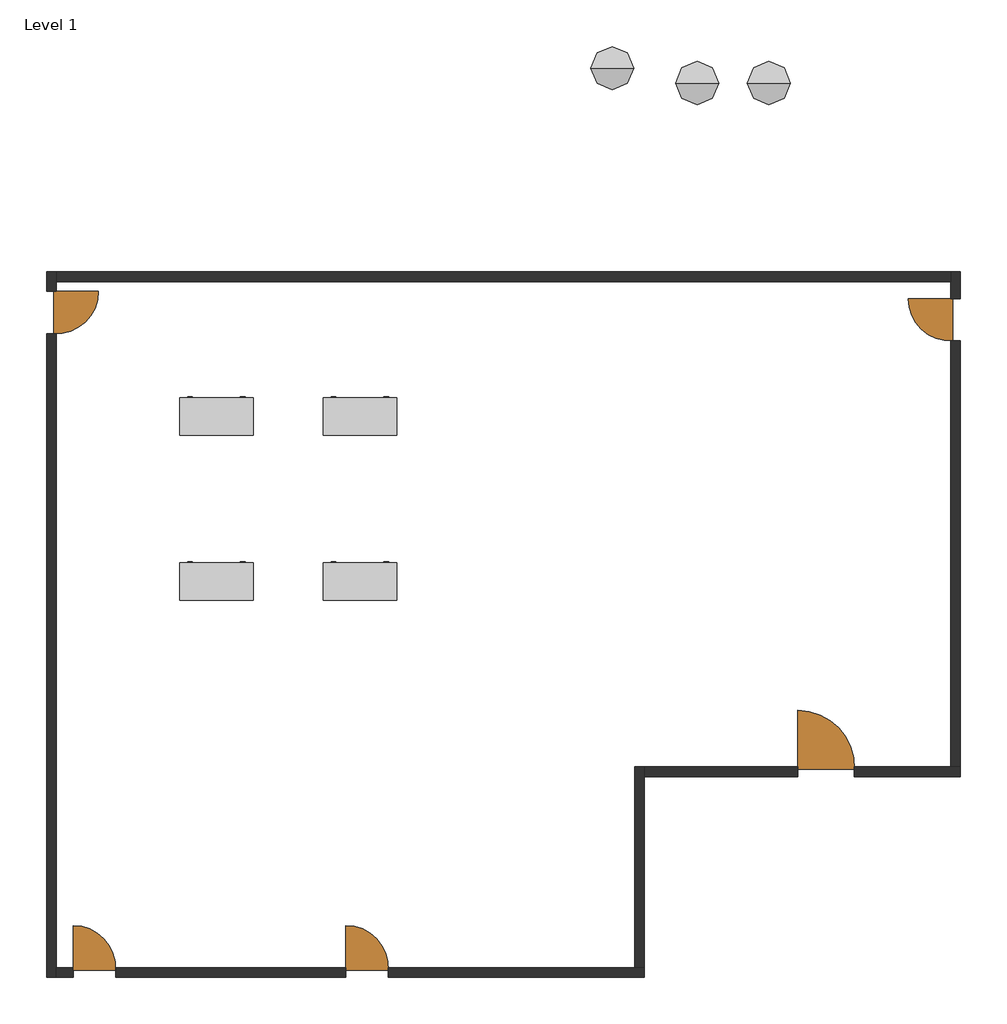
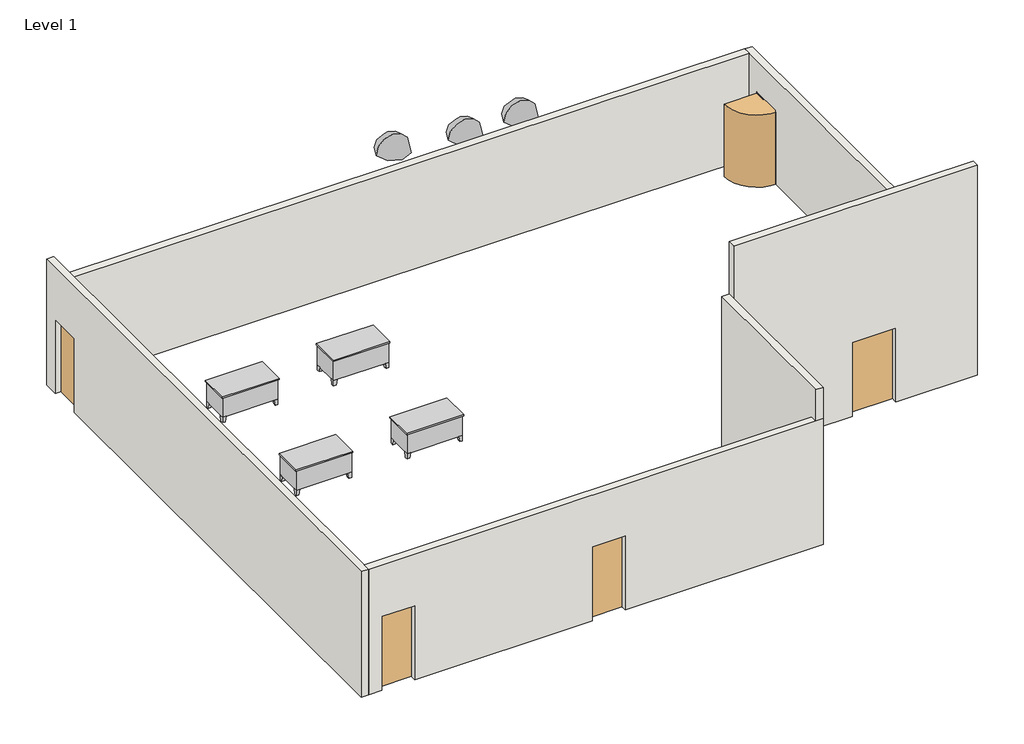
# One storey: 10 doors, 6 walls, 4 furniture elements, 3 geographic elements.
"""IFC4 building model written with IfcOpenShell, lengths in millimetres."""

from ifc_helpers import new_model, si_unit, origin, origin_with_axes, place, context, project, spatial, polyline, outline, extrude, faceted_brep, transform, mapped, element, save
from components import door_partition_swing_single_wh_exterior_078b59bc, door_partition_swing_single_wh_exterior_2_0468d7f5, door_partition_swing_single_wh_exterior_3_02f52fd3, pnl_pf_pnl_pf_4_7045c2cb, pnl_pf_pnl_pf_4_7c45ae1c, pnl_pf_pnl_pf_4_d502edfb, furniture_072f6425, geographic_element_e8c3bac9

model = new_model("IFC4")

# Units and contexts
model_context = context("Model", 3, world=origin())
ifc_project = project(units=[si_unit("LENGTHUNIT", "METRE", prefix="MILLI")], contexts=[model_context])

# Site, building, storey
site = spatial("IfcSite", under=ifc_project)
building = spatial("IfcBuilding", under=site)
storey = spatial("IfcBuildingStorey", under=building, Name="Level 1", Elevation=0.0)

# Doors
placement = place(None, origin())
door_partition_swing_single_wh_exterior_shape = door_partition_swing_single_wh_exterior_078b59bc(model_context)
element("IfcDoor", 1, ObjectType="Door_Partition_Swing_Single_WH : Exterior", at=placement, inside=storey, context=model_context, shape_type="MappedRepresentation", body=[
    mapped(door_partition_swing_single_wh_exterior_shape, transform((5422.8980806, 7885.4849511, 0.0), x_axis=(0.0, -1.0, 0.0), y_axis=(1.0, 0.0, 0.0), z_axis=(0.0, 0.0, 1.0))),
])
door_partition_swing_single_wh_exterior_2_shape = door_partition_swing_single_wh_exterior_2_0468d7f5(model_context)
element("IfcDoor", 2, ObjectType="Door_Partition_Swing_Single_WH : Exterior", at=placement, inside=storey, context=model_context, shape_type="MappedRepresentation", body=[
    mapped(door_partition_swing_single_wh_exterior_2_shape, transform((-13779.5019194, 8037.8849511, 0.0), x_axis=(0.0, -1.0, 0.0), y_axis=(1.0, 0.0, 0.0), z_axis=(0.0, 0.0, 1.0))),
])
element("IfcDoor", 3, ObjectType="Door_Partition_Swing_Single_WH : Exterior", at=placement, inside=storey, context=model_context, shape_type="MappedRepresentation", body=[
    mapped(door_partition_swing_single_wh_exterior_2_shape, transform((-12883.4672395, -6001.280369, 0.0), x_axis=(1.0, 0.0, 0.0), y_axis=(0.0, 1.0, 0.0), z_axis=(0.0, 0.0, 1.0))),
])
element("IfcDoor", 4, ObjectType="Door_Partition_Swing_Single_WH : Exterior 2", at=placement, inside=storey, context=model_context, shape_type="MappedRepresentation", body=[
    mapped(door_partition_swing_single_wh_exterior_2_shape, transform((-7092.2672395, -6001.280369, 0.0), x_axis=(1.0, 0.0, 0.0), y_axis=(0.0, 1.0, 0.0), z_axis=(0.0, 0.0, 1.0))),
])
door_partition_swing_single_wh_exterior_3_shape = door_partition_swing_single_wh_exterior_3_02f52fd3(model_context)
element("IfcDoor", 5, ObjectType="Door_Partition_Swing_Single_WH : Exterior 3", at=placement, inside=storey, context=model_context, shape_type="MappedRepresentation", body=[
    mapped(door_partition_swing_single_wh_exterior_3_shape, transform((2661.3327605, -1734.080369, 0.0), x_axis=(1.0, 0.0, 0.0), y_axis=(0.0, 1.0, 0.0), z_axis=(0.0, 0.0, 1.0))),
])
pnl_pf_pnl_pf_4_shape = pnl_pf_pnl_pf_4_7045c2cb(model_context)
element("IfcDoor", 6, ObjectType="Pnl_PF : Pnl_PF 4", at=placement, inside=storey, context=model_context, shape_type="MappedRepresentation", body=[
    mapped(pnl_pf_pnl_pf_4_shape, transform((2079.6980806, -1632.480369, 0.0), x_axis=(1.0, 0.0, 0.0), y_axis=(0.0, 1.0, 0.0), z_axis=(0.0, 0.0, 1.0))),
])
pnl_pf_pnl_pf_4_2_shape = pnl_pf_pnl_pf_4_7c45ae1c(model_context)
element("IfcDoor", 7, ObjectType="Pnl_PF : Pnl_PF 4", at=placement, inside=storey, context=model_context, shape_type="MappedRepresentation", body=[
    mapped(pnl_pf_pnl_pf_4_2_shape, transform((5321.2980806, 8317.119631, 0.0), x_axis=(0.0, -1.0, 0.0), y_axis=(1.0, 0.0, 0.0), z_axis=(0.0, 0.0, 1.0))),
])
pnl_pf_pnl_pf_4_3_shape = pnl_pf_pnl_pf_4_d502edfb(model_context)
element("IfcDoor", 8, ObjectType="Pnl_PF : Pnl_PF 4", at=placement, inside=storey, context=model_context, shape_type="MappedRepresentation", body=[
    mapped(pnl_pf_pnl_pf_4_3_shape, transform((-7523.9019194, -5899.680369, 0.0), x_axis=(1.0, 0.0, 0.0), y_axis=(0.0, 1.0, 0.0), z_axis=(0.0, 0.0, 1.0))),
])
element("IfcDoor", 9, ObjectType="Pnl_PF : Pnl_PF 4", at=placement, inside=storey, context=model_context, shape_type="MappedRepresentation", body=[
    mapped(pnl_pf_pnl_pf_4_3_shape, transform((-13315.1019194, -5899.680369, 0.0), x_axis=(1.0, 0.0, 0.0), y_axis=(0.0, 1.0, 0.0), z_axis=(0.0, 0.0, 1.0))),
])
element("IfcDoor", 10, ObjectType="Pnl_PF : Pnl_PF 4", at=placement, inside=storey, context=model_context, shape_type="MappedRepresentation", body=[
    mapped(pnl_pf_pnl_pf_4_3_shape, transform((-13677.9019194, 8469.519631, 0.0), x_axis=(0.0, -1.0, 0.0), y_axis=(1.0, 0.0, 0.0), z_axis=(0.0, 0.0, 1.0))),
])

# Furniture
furniture_shape = furniture_072f6425(model_context)
element("IfcFurniture", 11, ObjectType="Desk : 60\" x 30\"", at=placement, inside=storey, context=model_context, shape_type="MappedRepresentation", body=[
    mapped(furniture_shape, transform((-11036.3019194, 5428.719631, 0.0), x_axis=(1.0, 0.0, 0.0), y_axis=(0.0, 1.0, 0.0), z_axis=(0.0, 0.0, 1.0))),
])
element("IfcFurniture", 12, ObjectType="Desk : 60\" x 30\"", at=placement, inside=storey, context=model_context, shape_type="MappedRepresentation", body=[
    mapped(furniture_shape, transform((-11036.3019194, 1923.519631, 0.0), x_axis=(1.0, 0.0, 0.0), y_axis=(0.0, 1.0, 0.0), z_axis=(0.0, 0.0, 1.0))),
])
element("IfcFurniture", 13, ObjectType="Desk : 60\" x 30\"", at=placement, inside=storey, context=model_context, shape_type="MappedRepresentation", body=[
    mapped(furniture_shape, transform((-7988.3019194, 5428.719631, 0.0), x_axis=(1.0, 0.0, 0.0), y_axis=(0.0, 1.0, 0.0), z_axis=(0.0, 0.0, 1.0))),
])
element("IfcFurniture", 14, ObjectType="Desk : 60\" x 30\"", at=placement, inside=storey, context=model_context, shape_type="MappedRepresentation", body=[
    mapped(furniture_shape, transform((-7988.3019194, 1923.519631, 0.0), x_axis=(1.0, 0.0, 0.0), y_axis=(0.0, 1.0, 0.0), z_axis=(0.0, 0.0, 1.0))),
])

# Geographic elements
geographic_element_shape = geographic_element_e8c3bac9(model_context)
element("IfcGeographicElement", 15, ObjectType="Shubbery : Shubbery", at=placement, inside=storey, context=model_context, shape_type="MappedRepresentation", body=[
    mapped(geographic_element_shape, transform((1460.4980806, 12896.319631, 0.0), x_axis=(1.0, 0.0, 0.0), y_axis=(0.0, 1.0, 0.0), z_axis=(0.0, 0.0, 1.0))),
])
element("IfcGeographicElement", 16, ObjectType="Shubbery : Shubbery", at=placement, inside=storey, context=model_context, shape_type="MappedRepresentation", body=[
    mapped(geographic_element_shape, transform((-63.5019194, 12896.319631, 0.0), x_axis=(1.0, 0.0, 0.0), y_axis=(0.0, 1.0, 0.0), z_axis=(0.0, 0.0, 1.0))),
])
element("IfcGeographicElement", 17, ObjectType="Shubbery : Shubbery", at=placement, inside=storey, context=model_context, shape_type="MappedRepresentation", body=[
    mapped(geographic_element_shape, transform((-1864.5183381, 13213.8874183, 0.0), x_axis=(1.0, 0.0, 0.0), y_axis=(0.0, 1.0, 0.0), z_axis=(0.0, 0.0, 1.0))),
])

# Walls
element("IfcWall", 18, ObjectType="Generic - 8\"", at=placement, inside=storey, context=model_context, shape_type="Brep", body=[
    faceted_brep([(-13677.9019194, -6102.880369, 0.0), (-13677.9019194, -5899.680369, 0.0), (-13677.9019194, 7569.519631, 0.0), (-13677.9019194, 7569.519631, 2150.8), (-13677.9019194, 8469.519631, 2150.8), (-13677.9019194, 8469.519631, 0.0), (-13677.9019194, 8679.919631, 0.0), (-13677.9019194, 8883.119631, 0.0), (-13677.9019194, 8883.119631, 3048.0), (-13677.9019194, 8883.119631, 3657.6), (-13677.9019194, -5899.680369, 3657.6), (-13677.9019194, -6102.880369, 3657.6), (-13881.1019194, 7569.519631, 2150.8), (-13881.1019194, 7569.519631, 0.0), (-13881.1019194, -6102.880369, 0.0), (-13881.1019194, -6102.880369, 3657.6), (-13881.1019194, 8883.119631, 3657.6), (-13881.1019194, 8883.119631, 0.0), (-13881.1019194, 8469.519631, 0.0), (-13881.1019194, 8469.519631, 2150.8)], [[[0, 1, 2, 3, 4, 5, 6, 7, 8, 9, 10, 11]], [[12, 13, 14, 15, 16, 17, 18, 19]], [[18, 17, 7, 6, 5]], [[14, 13, 2, 1, 0]], [[11, 10, 9, 16, 15]], [[0, 11, 15, 14]], [[7, 17, 16, 9, 8]], [[5, 4, 19, 18]], [[3, 2, 13, 12]], [[4, 3, 12, 19]]]),
])
element("IfcWall", 19, ObjectType="Generic - 8\"", at=placement, inside=storey, context=model_context, shape_type="SweptSolid", body=[
    extrude(outline(polyline([(5321.2980806, 8679.919631), (-13677.9019194, 8679.919631), (-13677.9019194, 8883.119631), (5321.2980806, 8883.119631), (5321.2980806, 8679.919631)])), origin_with_axes(), (0.0, 0.0, 1.0), 3048.0),
])
element("IfcWall", 20, ObjectType="Generic - 8\"", at=placement, inside=storey, context=model_context, shape_type="Brep", body=[
    faceted_brep([(-12415.1019194, -6102.880369, 2150.8), (-12415.1019194, -6102.880369, 0.0), (-7523.9019194, -6102.880369, 0.0), (-7523.9019194, -6102.880369, 2150.8), (-6623.9019194, -6102.880369, 2150.8), (-6623.9019194, -6102.880369, 0.0), (-1181.1019194, -6102.880369, 0.0), (-1181.1019194, -6102.880369, 3657.6), (-1384.3019194, -6102.880369, 3657.6), (-13677.9019194, -6102.880369, 3657.6), (-13677.9019194, -6102.880369, 0.0), (-13315.1019194, -6102.880369, 0.0), (-13315.1019194, -6102.880369, 2150.8), (-7523.9019194, -5899.680369, 0.0), (-12415.1019194, -5899.680369, 0.0), (-12415.1019194, -5899.680369, 2150.8), (-13315.1019194, -5899.680369, 2150.8), (-13315.1019194, -5899.680369, 0.0), (-13677.9019194, -5899.680369, 0.0), (-13677.9019194, -5899.680369, 3657.6), (-1384.3019194, -5899.680369, 3657.6), (-1181.1019194, -5899.680369, 3657.6), (-1181.1019194, -5899.680369, 0.0), (-1384.3019194, -5899.680369, 0.0), (-6623.9019194, -5899.680369, 0.0), (-6623.9019194, -5899.680369, 2150.8), (-7523.9019194, -5899.680369, 2150.8)], [[[0, 1, 2, 3, 4, 5, 6, 7, 8, 9, 10, 11, 12]], [[13, 14, 15, 16, 17, 18, 19, 20, 21, 22, 23, 24, 25, 26]], [[6, 5, 24, 23, 22]], [[11, 10, 18, 17]], [[2, 1, 14, 13]], [[9, 8, 7, 21, 20, 19]], [[10, 9, 19, 18]], [[7, 6, 22, 21]], [[13, 26, 3, 2]], [[25, 24, 5, 4]], [[26, 25, 4, 3]], [[17, 16, 12, 11]], [[15, 14, 1, 0]], [[16, 15, 0, 12]]]),
])
element("IfcWall", 21, ObjectType="Generic - 8\"", at=placement, inside=storey, context=model_context, shape_type="Brep", body=[
    faceted_brep([(-1181.1019194, -5899.680369, 0.0), (-1181.1019194, -1835.680369, 0.0), (-1181.1019194, -1632.480369, 0.0), (-1181.1019194, -1632.480369, 4572.0), (-1181.1019194, -6102.880369, 4572.0), (-1181.1019194, -6102.880369, 3657.6), (-1181.1019194, -5899.680369, 3657.6), (-1384.3019194, -5899.680369, 0.0), (-1384.3019194, -5899.680369, 3657.6), (-1384.3019194, -6102.880369, 3657.6), (-1384.3019194, -6102.880369, 4572.0), (-1384.3019194, -1632.480369, 4572.0), (-1384.3019194, -1632.480369, 0.0)], [[[0, 1, 2, 3, 4, 5, 6]], [[7, 8, 9, 10, 11, 12]], [[2, 1, 0, 7, 12]], [[4, 3, 11, 10]], [[3, 2, 12, 11]], [[5, 9, 8, 6]], [[0, 6, 8, 7]], [[5, 4, 10, 9]]]),
])
element("IfcWall", 22, ObjectType="Generic - 8\"", at=placement, inside=storey, context=model_context, shape_type="Brep", body=[
    faceted_brep([(3279.6980806, -1835.680369, 2150.8), (3279.6980806, -1835.680369, 0.0), (5524.4980806, -1835.680369, 0.0), (5524.4980806, -1835.680369, 6096.0), (-1181.1019194, -1835.680369, 6096.0), (-1181.1019194, -1835.680369, 0.0), (2079.6980806, -1835.680369, 0.0), (2079.6980806, -1835.680369, 2150.8), (5524.4980806, -1632.480369, 0.0), (5321.2980806, -1632.480369, 0.0), (3279.6980806, -1632.480369, 0.0), (3279.6980806, -1632.480369, 2150.8), (2079.6980806, -1632.480369, 2150.8), (2079.6980806, -1632.480369, 0.0), (-1181.1019194, -1632.480369, 0.0), (-1181.1019194, -1632.480369, 4572.0), (-1181.1019194, -1632.480369, 6096.0), (5524.4980806, -1632.480369, 6096.0), (5524.4980806, -1632.480369, 3048.0)], [[[0, 1, 2, 3, 4, 5, 6, 7]], [[8, 9, 10, 11, 12, 13, 14, 15, 16, 17, 18]], [[6, 5, 14, 13]], [[2, 1, 10, 9, 8]], [[4, 3, 17, 16]], [[5, 4, 16, 15, 14]], [[3, 2, 8, 18, 17]], [[13, 12, 7, 6]], [[11, 10, 1, 0]], [[12, 11, 0, 7]]]),
])
element("IfcWall", 23, ObjectType="Generic - 8\"", at=placement, inside=storey, context=model_context, shape_type="Brep", body=[
    faceted_brep([(5524.4980806, -1632.480369, 0.0), (5524.4980806, 7417.119631, 0.0), (5524.4980806, 7417.119631, 2150.8), (5524.4980806, 8317.119631, 2150.8), (5524.4980806, 8317.119631, 0.0), (5524.4980806, 8883.119631, 0.0), (5524.4980806, 8883.119631, 3048.0), (5524.4980806, -1632.480369, 3048.0), (5321.2980806, 7417.119631, 2150.8), (5321.2980806, 7417.119631, 0.0), (5321.2980806, -1632.480369, 0.0), (5321.2980806, -1632.480369, 3048.0), (5321.2980806, 8679.919631, 3048.0), (5321.2980806, 8883.119631, 3048.0), (5321.2980806, 8883.119631, 0.0), (5321.2980806, 8679.919631, 0.0), (5321.2980806, 8317.119631, 0.0), (5321.2980806, 8317.119631, 2150.8)], [[[0, 1, 2, 3, 4, 5, 6, 7]], [[8, 9, 10, 11, 12, 13, 14, 15, 16, 17]], [[10, 9, 1, 0]], [[16, 15, 14, 5, 4]], [[7, 6, 13, 12, 11]], [[0, 7, 11, 10]], [[6, 5, 14, 13]], [[4, 3, 17, 16]], [[2, 1, 9, 8]], [[3, 2, 8, 17]]]),
])

save(model, "model.ifc")
